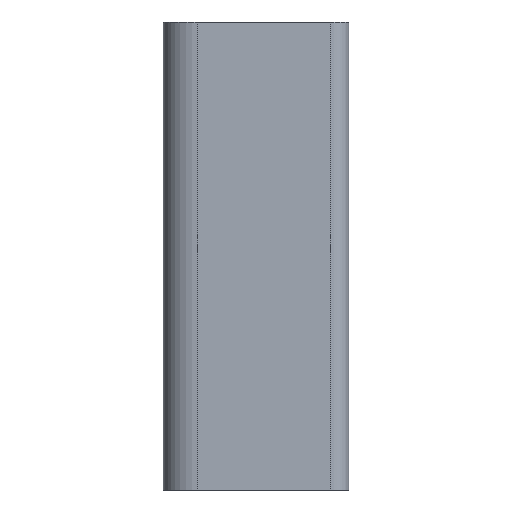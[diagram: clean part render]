
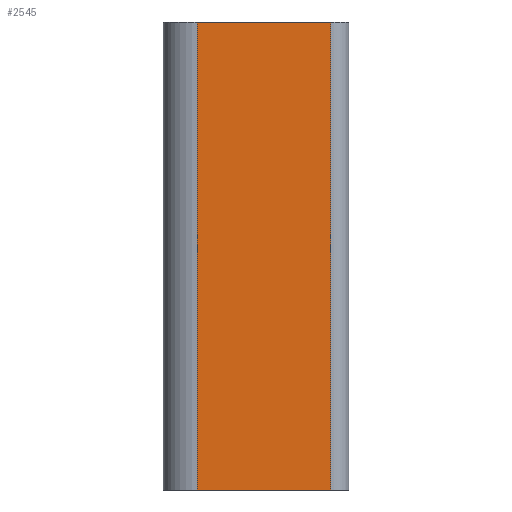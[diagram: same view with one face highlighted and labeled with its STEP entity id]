
A CAD part, front view. The second image highlights one B-rep face of the part: STEP entity #2545.
In plain terms, the highlighted planar face has unit normal (0, -1, 0).
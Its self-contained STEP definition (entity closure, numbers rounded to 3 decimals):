
#90=PLANE($,#2789);
#211=FACE_OUTER_BOUND($,#336,.T.);
#336=EDGE_LOOP($,(#2068,#2069,#2070,#2071));
#593=LINE($,#4248,#842);
#594=LINE($,#4251,#843);
#595=LINE($,#4253,#844);
#596=LINE($,#4254,#845);
#842=VECTOR($,#3492,120.);
#843=VECTOR($,#3495,34.2);
#844=VECTOR($,#3496,34.2);
#845=VECTOR($,#3497,120.);
#1219=VERTEX_POINT($,#4244);
#1220=VERTEX_POINT($,#4246);
#1221=VERTEX_POINT($,#4250);
#1222=VERTEX_POINT($,#4252);
#1581=EDGE_CURVE($,#1219,#1220,#593,.T.);
#1582=EDGE_CURVE($,#1219,#1221,#594,.T.);
#1583=EDGE_CURVE($,#1222,#1220,#595,.T.);
#1584=EDGE_CURVE($,#1221,#1222,#596,.T.);
#2068=ORIENTED_EDGE($,*,*,#1582,.F.);
#2069=ORIENTED_EDGE($,*,*,#1581,.T.);
#2070=ORIENTED_EDGE($,*,*,#1583,.F.);
#2071=ORIENTED_EDGE($,*,*,#1584,.F.);
#2545=ADVANCED_FACE($,(#211),#90,.T.);
#2789=AXIS2_PLACEMENT_3D($,#4249,#3493,#3494);
#3492=DIRECTION($,(0.,0.,1.));
#3493=DIRECTION('center_axis',(0.,-1.,0.));
#3494=DIRECTION('ref_axis',(1.,0.,0.));
#3495=DIRECTION($,(-1.,0.,0.));
#3496=DIRECTION($,(1.,0.,0.));
#3497=DIRECTION($,(0.,0.,1.));
#4244=CARTESIAN_POINT('',(44.054,0.717,0.));
#4246=CARTESIAN_POINT('',(44.054,0.717,120.));
#4248=CARTESIAN_POINT($,(44.054,0.717,0.));
#4249=CARTESIAN_POINT('Origin',(9.854,0.717,0.));
#4250=CARTESIAN_POINT('',(9.854,0.717,0.));
#4251=CARTESIAN_POINT($,(44.054,0.717,0.));
#4252=CARTESIAN_POINT('',(9.854,0.717,120.));
#4253=CARTESIAN_POINT($,(44.054,0.717,120.));
#4254=CARTESIAN_POINT($,(9.854,0.717,0.));
